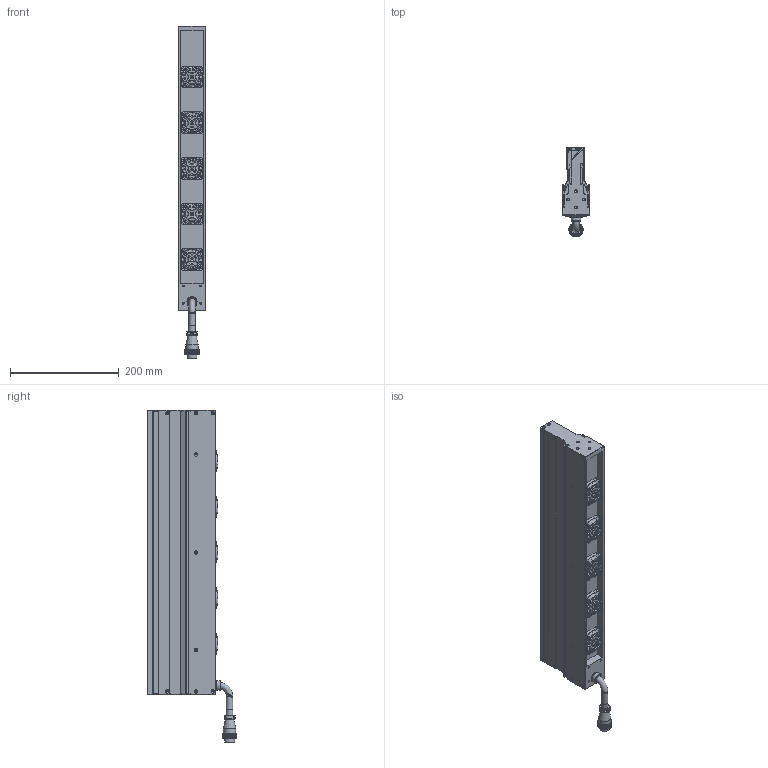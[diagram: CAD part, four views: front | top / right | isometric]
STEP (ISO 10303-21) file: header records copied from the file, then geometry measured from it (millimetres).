
FILE_DESCRIPTION (( 'STEP AP203' ), '1' );
FILE_NAME ('OPT-LSSC524-W-V3.1U尨砩芞.STEP', '2025-02-05T08:40:42', ( 'USER' ), ( '' ), 'SwSTEP 2.0', 'SolidWorks 2016', '' );
FILE_SCHEMA (( 'CONFIG_CONTROL_DESIGN' ));
Length unit declared in the file: millimetre
Products named in the file (2): OPT-LSSC524-W-V3.1U尨砩芞
Bounding box: 50 x 164.5 x 611.1 mm (x, y, z)
Volume: 2034904.9 mm3; surface area: 402330.3 mm2
Topology: 26 solids, 35 shells, 2956 faces, 7555 edges, 4793 vertices
Faces by surface type: bspline 1078, cylinder 876, plane 740, torus 197, cone 65
Full cylindrical faces by diameter (mm): 1 x2, 1.6 x20, 2 x5, 2.5 x26, 3 x4, 3.2 x24, 3.4 x24, 3.5 x4, 5 x8, 6.2 x20, 8 x1, 11.6 x1, 11.7 x3, 12 x1, 15 x1, 15.9 x1, 17.5 x1, 18 x1, 18.5 x1, 22.8 x1, 24 x1, 24.8 x5, 38 x5
Entity records: 110263 total; most frequent: CARTESIAN_POINT 51378, ORIENTED_EDGE 14234, DIRECTION 7969, EDGE_CURVE 7117, VERTEX_POINT 4689, B_SPLINE_CURVE_WITH_KNOTS 4220, EDGE_LOOP 3448, FACE_OUTER_BOUND 3211
